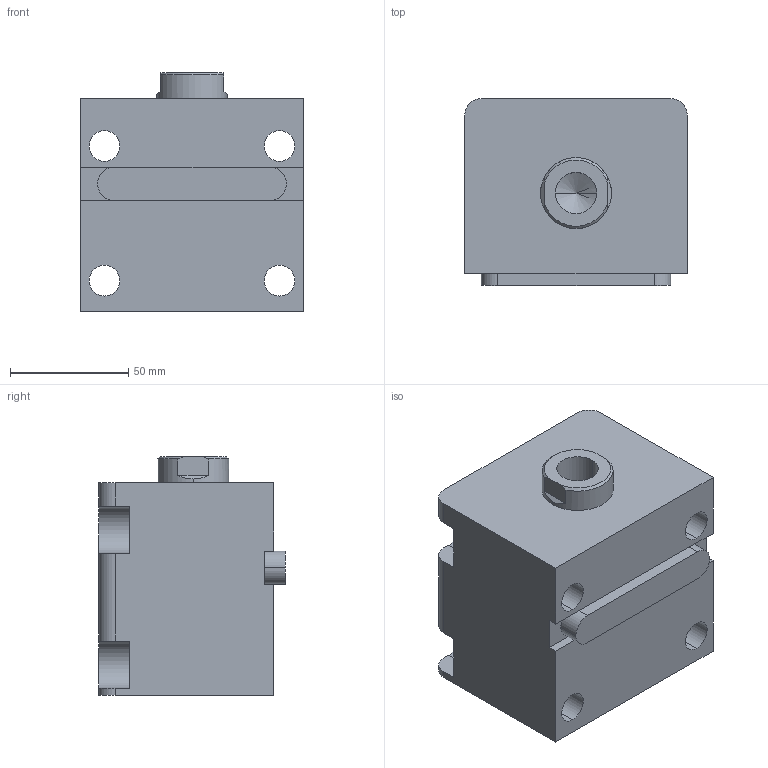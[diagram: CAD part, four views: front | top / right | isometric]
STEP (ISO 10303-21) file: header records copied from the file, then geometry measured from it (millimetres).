
FILE_DESCRIPTION (( 'STEP AP203' ), '1' );
FILE_NAME ('HTB-LA50-30N.STEP', '2019-10-09T07:08:15', ( '微软用户' ), ( '微软中国' ), 'SwSTEP 2.0', 'SolidWorks 2012', '' );
FILE_SCHEMA (( 'CONFIG_CONTROL_DESIGN' ));
Length unit declared in the file: millimetre
Products named in the file (4): HTB-LA50-瑩; HTB-LA50-30N; HTB-LA50-30N活塞杆; HTB-LA50-30掛极
Assembly tree (3 placements, depth 2):
  HTB-LA50-30N
    HTB-LA50-30掛极
    HTB-LA50-30N活塞杆
    HTB-LA50-瑩
Bounding box: 94 x 79 x 101 mm (x, y, z)
Volume: 539239.9 mm3; surface area: 87738 mm2
Topology: 3 solids, 3 shells, 86 faces, 213 edges, 139 vertices
Faces by surface type: plane 39, cylinder 35, cone 8, torus 4
Entity records: 3001 total; most frequent: DIRECTION 475, CARTESIAN_POINT 470, ORIENTED_EDGE 422, EDGE_CURVE 211, AXIS2_PLACEMENT_3D 180, VERTEX_POINT 139, LINE 115, VECTOR 115
